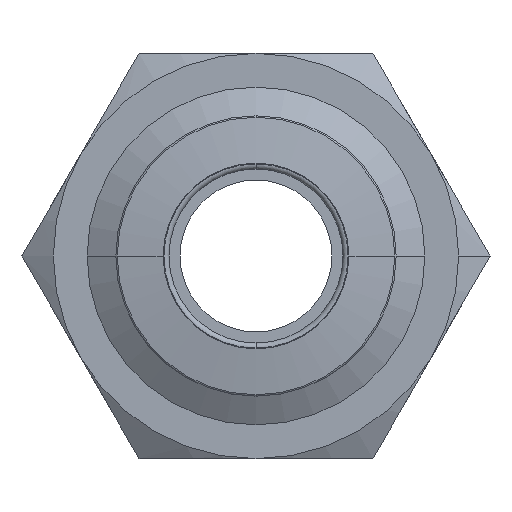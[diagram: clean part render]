
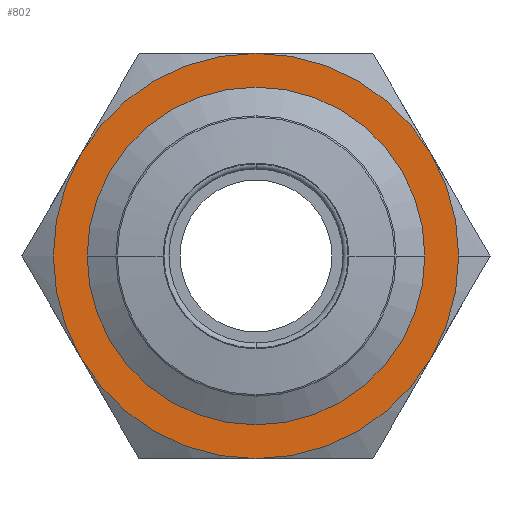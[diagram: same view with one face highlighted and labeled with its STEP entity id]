
A CAD part, front view. The second image highlights one B-rep face of the part: STEP entity #802.
In plain terms, the highlighted planar face has unit normal (0, -1, 0).
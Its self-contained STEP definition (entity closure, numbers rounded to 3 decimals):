
#32 = ORIENTED_EDGE ( 'NONE', *, *, #557, .T. ) ;
#46 = CIRCLE ( 'NONE', #585, 10. ) ;
#106 = CIRCLE ( 'NONE', #1323, 12. ) ;
#140 = VERTEX_POINT ( 'NONE', #1164 ) ;
#149 = AXIS2_PLACEMENT_3D ( 'NONE', #2730, #2715, #785 ) ;
#261 = CARTESIAN_POINT ( 'NONE',  ( -10.392, -6.5, -6. ) ) ;
#299 = CARTESIAN_POINT ( 'NONE',  ( 0., -6.5, 0. ) ) ;
#300 = EDGE_CURVE ( 'NONE', #140, #439, #1322, .T. ) ;
#307 = DIRECTION ( 'NONE',  ( 0., -1., 0. ) ) ;
#313 = DIRECTION ( 'NONE',  ( 1., 0., 0. ) ) ;
#339 = DIRECTION ( 'NONE',  ( 0., -1., 0. ) ) ;
#373 = DIRECTION ( 'NONE',  ( 0., -1., 0. ) ) ;
#386 = CARTESIAN_POINT ( 'NONE',  ( 10., -6.5, 0. ) ) ;
#439 = VERTEX_POINT ( 'NONE', #1268 ) ;
#503 = DIRECTION ( 'NONE',  ( 1., 0., 0. ) ) ;
#557 = EDGE_CURVE ( 'NONE', #2360, #140, #2787, .T. ) ;
#569 = ORIENTED_EDGE ( 'NONE', *, *, #924, .T. ) ;
#573 = ORIENTED_EDGE ( 'NONE', *, *, #2415, .F. ) ;
#585 = AXIS2_PLACEMENT_3D ( 'NONE', #2449, #307, #503 ) ;
#623 = ORIENTED_EDGE ( 'NONE', *, *, #2520, .T. ) ;
#657 = AXIS2_PLACEMENT_3D ( 'NONE', #1715, #1756, #887 ) ;
#698 = DIRECTION ( 'NONE',  ( 0., -1., 0. ) ) ;
#742 = VERTEX_POINT ( 'NONE', #894 ) ;
#750 = EDGE_CURVE ( 'NONE', #742, #1531, #1609, .T. ) ;
#785 = DIRECTION ( 'NONE',  ( 1., 0., 0. ) ) ;
#802 = ADVANCED_FACE ( 'NONE', ( #1154, #1576 ), #2675, .T. ) ;
#838 = EDGE_CURVE ( 'NONE', #2717, #1834, #2076, .T. ) ;
#887 = DIRECTION ( 'NONE',  ( 1., 0., 0. ) ) ;
#894 = CARTESIAN_POINT ( 'NONE',  ( -10., -6.5, 0. ) ) ;
#895 = ORIENTED_EDGE ( 'NONE', *, *, #838, .T. ) ;
#924 = EDGE_CURVE ( 'NONE', #439, #2717, #1232, .T. ) ;
#934 = DIRECTION ( 'NONE',  ( 0., -1., 0. ) ) ;
#963 = AXIS2_PLACEMENT_3D ( 'NONE', #2433, #934, #313 ) ;
#998 = CARTESIAN_POINT ( 'NONE',  ( 12., -6.5, 0. ) ) ;
#1034 = EDGE_LOOP ( 'NONE', ( #573, #2651 ) ) ;
#1115 = DIRECTION ( 'NONE',  ( 0., -1., 0. ) ) ;
#1154 = FACE_OUTER_BOUND ( 'NONE', #1565, .T. ) ;
#1164 = CARTESIAN_POINT ( 'NONE',  ( 0., -6.5, 12. ) ) ;
#1174 = EDGE_CURVE ( 'NONE', #1834, #2296, #1288, .T. ) ;
#1232 = CIRCLE ( 'NONE', #2579, 12. ) ;
#1268 = CARTESIAN_POINT ( 'NONE',  ( -10.392, -6.5, 6. ) ) ;
#1288 = CIRCLE ( 'NONE', #657, 12. ) ;
#1313 = DIRECTION ( 'NONE',  ( 1., 0., 0. ) ) ;
#1322 = CIRCLE ( 'NONE', #149, 12. ) ;
#1323 = AXIS2_PLACEMENT_3D ( 'NONE', #2057, #373, #2510 ) ;
#1357 = DIRECTION ( 'NONE',  ( 0., 0., -1. ) ) ;
#1392 = AXIS2_PLACEMENT_3D ( 'NONE', #2372, #1115, #1313 ) ;
#1432 = DIRECTION ( 'NONE',  ( 1., 0., 0. ) ) ;
#1480 = VERTEX_POINT ( 'NONE', #998 ) ;
#1531 = VERTEX_POINT ( 'NONE', #386 ) ;
#1565 = EDGE_LOOP ( 'NONE', ( #623, #2146, #32, #2175, #569, #895, #2412 ) ) ;
#1570 = CARTESIAN_POINT ( 'NONE',  ( 0., -6.5, 0. ) ) ;
#1576 = FACE_BOUND ( 'NONE', #1034, .T. ) ;
#1591 = CIRCLE ( 'NONE', #2303, 12. ) ;
#1609 = CIRCLE ( 'NONE', #1392, 10. ) ;
#1715 = CARTESIAN_POINT ( 'NONE',  ( 0., -6.5, 0. ) ) ;
#1738 = CARTESIAN_POINT ( 'NONE',  ( 10.392, -6.5, -6. ) ) ;
#1756 = DIRECTION ( 'NONE',  ( 0., -1., 0. ) ) ;
#1771 = CARTESIAN_POINT ( 'NONE',  ( 0., -6.5, -12. ) ) ;
#1834 = VERTEX_POINT ( 'NONE', #1771 ) ;
#1852 = CARTESIAN_POINT ( 'NONE',  ( 0., -6.5, 0. ) ) ;
#1993 = DIRECTION ( 'NONE',  ( 1., 0., 0. ) ) ;
#2027 = CARTESIAN_POINT ( 'NONE',  ( 10.392, -6.5, 6. ) ) ;
#2057 = CARTESIAN_POINT ( 'NONE',  ( 0., -6.5, 0. ) ) ;
#2076 = CIRCLE ( 'NONE', #963, 12. ) ;
#2083 = DIRECTION ( 'NONE',  ( 0., -1., 0. ) ) ;
#2101 = AXIS2_PLACEMENT_3D ( 'NONE', #1570, #698, #1993 ) ;
#2146 = ORIENTED_EDGE ( 'NONE', *, *, #2501, .T. ) ;
#2175 = ORIENTED_EDGE ( 'NONE', *, *, #300, .T. ) ;
#2257 = CARTESIAN_POINT ( 'NONE',  ( 11., -6.5, 0. ) ) ;
#2296 = VERTEX_POINT ( 'NONE', #1738 ) ;
#2303 = AXIS2_PLACEMENT_3D ( 'NONE', #1852, #2083, #1432 ) ;
#2360 = VERTEX_POINT ( 'NONE', #2027 ) ;
#2372 = CARTESIAN_POINT ( 'NONE',  ( 0., -6.5, 0. ) ) ;
#2412 = ORIENTED_EDGE ( 'NONE', *, *, #1174, .T. ) ;
#2415 = EDGE_CURVE ( 'NONE', #1531, #742, #46, .T. ) ;
#2433 = CARTESIAN_POINT ( 'NONE',  ( 0., -6.5, 0. ) ) ;
#2443 = DIRECTION ( 'NONE',  ( 0., -1., 0. ) ) ;
#2449 = CARTESIAN_POINT ( 'NONE',  ( 0., -6.5, 0. ) ) ;
#2501 = EDGE_CURVE ( 'NONE', #1480, #2360, #106, .T. ) ;
#2510 = DIRECTION ( 'NONE',  ( 1., 0., 0. ) ) ;
#2520 = EDGE_CURVE ( 'NONE', #2296, #1480, #1591, .T. ) ;
#2535 = AXIS2_PLACEMENT_3D ( 'NONE', #2257, #339, #1357 ) ;
#2579 = AXIS2_PLACEMENT_3D ( 'NONE', #299, #2443, #2649 ) ;
#2649 = DIRECTION ( 'NONE',  ( 1., 0., 0. ) ) ;
#2651 = ORIENTED_EDGE ( 'NONE', *, *, #750, .F. ) ;
#2675 = PLANE ( 'NONE',  #2535 ) ;
#2715 = DIRECTION ( 'NONE',  ( 0., -1., 0. ) ) ;
#2717 = VERTEX_POINT ( 'NONE', #261 ) ;
#2730 = CARTESIAN_POINT ( 'NONE',  ( 0., -6.5, 0. ) ) ;
#2787 = CIRCLE ( 'NONE', #2101, 12. ) ;
